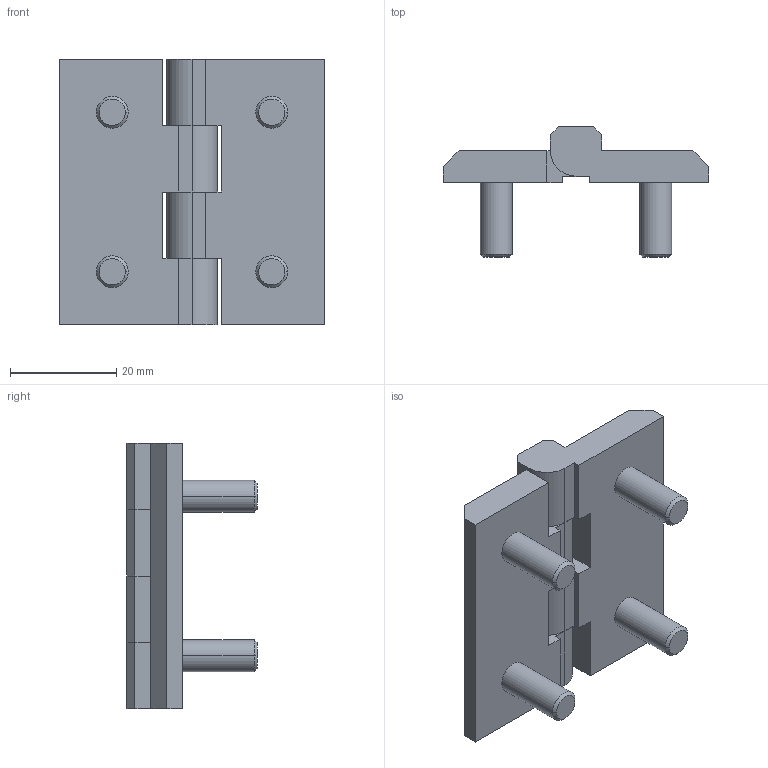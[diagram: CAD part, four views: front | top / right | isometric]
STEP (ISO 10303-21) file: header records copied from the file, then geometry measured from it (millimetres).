
FILE_DESCRIPTION(('STEP AP203'),'1');
FILE_NAME(' ',' ',('TraceParts'),('TraceParts S.A.'),'XStep 1.0',' ',' ');
FILE_SCHEMA(('CONFIG_CONTROL_DESIGN'));
Length unit declared in the file: millimetre
Products named in the file (2): 1; 2
Bounding box: 50 x 24.5 x 50 mm (x, y, z)
Volume: 17275.3 mm3; surface area: 9178.7 mm2
Topology: 2 solids, 2 shells, 83 faces, 214 edges, 140 vertices
Faces by surface type: plane 55, cylinder 20, cone 8
Entity records: 2612 total; most frequent: CARTESIAN_POINT 439, DIRECTION 432, ORIENTED_EDGE 428, EDGE_CURVE 214, LINE 166, VECTOR 166, VERTEX_POINT 140, AXIS2_PLACEMENT_3D 133
